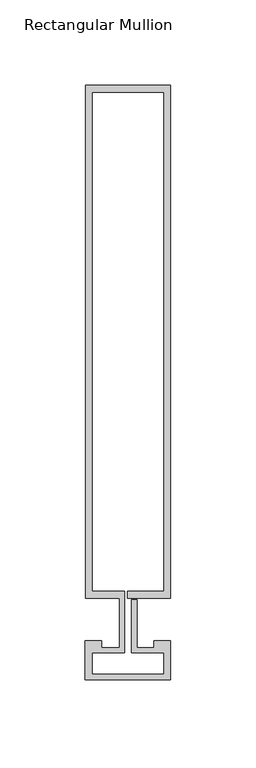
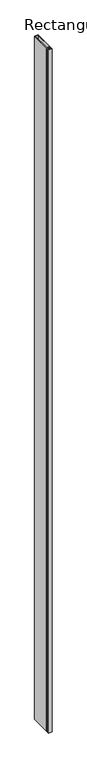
"""IFC4 building model written with IfcOpenShell, lengths in millimetres: member geometry, Rectangular Mullion : Reynaers_CW-50_Mullion-Transom_Vertical_300.5mm_Facecap-02C."""

from ifc_helpers import new_model, si_unit, frame, origin, place, context, project, spatial, polyline, outline, extrude, source, transform, mapped, element, save


def rectangular_mullion_fc27753a(model_context):
    return source(origin(), model_context, "Body", "SweptSolid", [
        extrude(outline(polyline([(-24.8004059, 313.0), (25.1995941, 313.0), (25.1995941, 12.5), (0.0, 12.5), (0.0, 16.5), (21.1995941, 16.5), (21.1995941, 309.0), (-20.8004059, 309.0), (-20.8004059, 16.5), (-1.9004059, 16.5), (-1.9004059, -19.5), (-20.994845, -19.5), (-20.994845, -32.2191338), (21.1995941, -32.2191338), (21.1995941, -19.5), (2.2995941, -19.5), (2.2995941, 11.5), (5.2995941, 11.5), (5.2995941, -16.5), (15.2996495, -16.5), (15.2996495, -12.5), (25.1995941, -12.5), (25.1995941, -35.3), (-24.994845, -35.3), (-24.994845, -12.5), (-15.2996495, -12.5), (-15.2996495, -16.5), (-4.9004059, -16.5), (-4.9004059, 12.5), (-24.8004059, 12.5), (-24.8004059, 313.0)])), frame((0.0, 0.0, -10400.0), z_axis=(0.0, 0.0, 1.0), x_axis=(1.0, 0.0, 0.0)), (0.0, 0.0, 1.0), 10400.0),
    ])


if __name__ == "__main__":
    model = new_model("IFC4")
    model_context = context("Model", 3, world=origin())
    ifc_project = project(units=[si_unit("LENGTHUNIT", "METRE", prefix="MILLI")], contexts=[model_context])
    site = spatial("IfcSite", under=ifc_project)
    building = spatial("IfcBuilding", under=site)
    placement = place(None, origin())
    rectangular_mullion_shape = rectangular_mullion_fc27753a(model_context)
    element("IfcMember", 1, ObjectType="Rectangular Mullion : Reynaers_CW-50_Mullion-Transom_Vertical_300.5mm_Facecap-02C", at=placement, inside=building, context=model_context, shape_type="MappedRepresentation", body=[
        mapped(rectangular_mullion_shape, transform((0.0, 0.0, 0.0), x_axis=(1.0, 0.0, 0.0), y_axis=(0.0, 1.0, 0.0), z_axis=(0.0, 0.0, 1.0))),
    ])
    save(model, "model.ifc")
